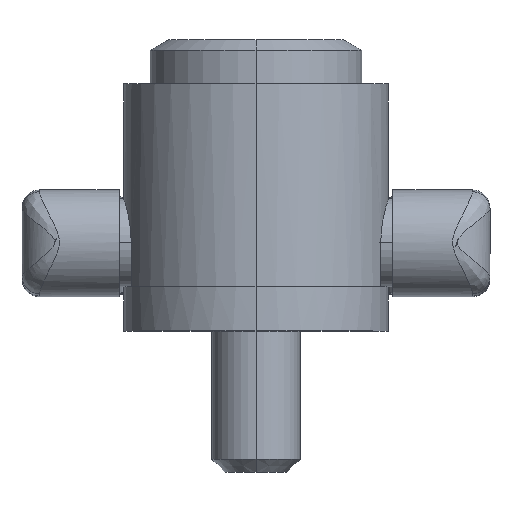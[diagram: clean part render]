
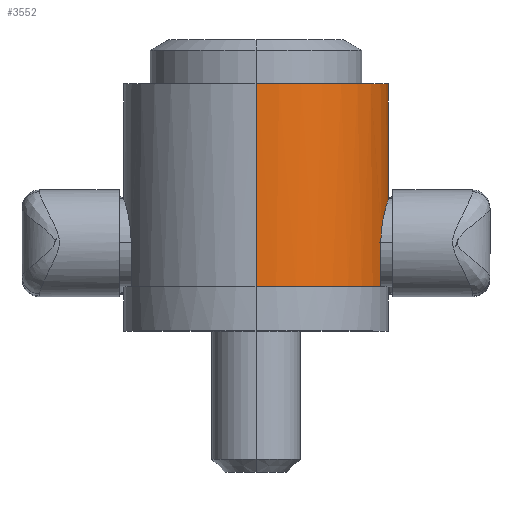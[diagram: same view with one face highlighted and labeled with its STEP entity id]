
A CAD part, top view. The second image highlights one B-rep face of the part: STEP entity #3552.
In plain terms, the highlighted cylindrical face has radius 15 mm (diameter 30 mm), a partial arc.
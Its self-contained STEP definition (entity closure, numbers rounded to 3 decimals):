
#2195 = DIRECTION ( 'NONE',  ( 0., -1., 0. ) ) ;
#2199 = DIRECTION ( 'NONE',  ( 0., 0., -1. ) ) ;
#2480 = CYLINDRICAL_SURFACE ( 'NONE', #2482, 15. ) ;
#2481 = CARTESIAN_POINT ( 'NONE',  ( 0., 33., 0. ) ) ;
#2482 = AXIS2_PLACEMENT_3D ( 'NONE', #2481, #2195, #2199 ) ;
#2524 = CARTESIAN_POINT ( 'NONE',  ( 14.142, 5., -5. ) ) ;
#2572 = CARTESIAN_POINT ( 'NONE',  ( 14.142, 5., 5. ) ) ;
#2573 = DIRECTION ( 'NONE',  ( 0., 0., -1. ) ) ;
#2574 = DIRECTION ( 'NONE',  ( 0., -1., 0. ) ) ;
#2575 = CARTESIAN_POINT ( 'NONE',  ( 0., 5., 0. ) ) ;
#2576 = AXIS2_PLACEMENT_3D ( 'NONE', #2575, #2574, #2573 ) ;
#2577 = CIRCLE ( 'NONE', #2576, 15. ) ;
#2637 = CARTESIAN_POINT ( 'NONE',  ( 0., 5., -15. ) ) ;
#2658 = DIRECTION ( 'NONE',  ( 0., -1., 0. ) ) ;
#2659 = VECTOR ( 'NONE', #2658, 1000. ) ;
#2660 = CARTESIAN_POINT ( 'NONE',  ( 0., 33., -15. ) ) ;
#2661 = LINE ( 'NONE', #2660, #2659 ) ;
#2662 = DIRECTION ( 'NONE',  ( 0., 0., -1. ) ) ;
#2663 = DIRECTION ( 'NONE',  ( 0., -1., 0. ) ) ;
#2664 = CARTESIAN_POINT ( 'NONE',  ( 0., 5., 0. ) ) ;
#2665 = AXIS2_PLACEMENT_3D ( 'NONE', #2664, #2663, #2662 ) ;
#2666 = CIRCLE ( 'NONE', #2665, 15. ) ;
#2667 = FACE_OUTER_BOUND ( 'NONE', #3606, .T. ) ;
#3427 = ORIENTED_EDGE ( 'NONE', *, *, #3647, .T. ) ;
#3465 = VERTEX_POINT ( 'NONE', #2524 ) ;
#3466 = VERTEX_POINT ( 'NONE', #2637 ) ;
#3467 = ORIENTED_EDGE ( 'NONE', *, *, #3530, .F. ) ;
#3484 = EDGE_CURVE ( 'NONE', #3486, #3645, #2577, .T. ) ;
#3485 = ORIENTED_EDGE ( 'NONE', *, *, #3644, .T. ) ;
#3486 = VERTEX_POINT ( 'NONE', #2572 ) ;
#3530 = EDGE_CURVE ( 'NONE', #3466, #3465, #2666, .T. ) ;
#3531 = ORIENTED_EDGE ( 'NONE', *, *, #3532, .F. ) ;
#3532 = EDGE_CURVE ( 'NONE', #3610, #3466, #2661, .T. ) ;
#3552 = ADVANCED_FACE ( 'NONE', ( #2667 ), #2480, .T. ) ;
#3600 = EDGE_CURVE ( 'NONE', #3612, #3465, #5341, .T. ) ;
#3601 = ORIENTED_EDGE ( 'NONE', *, *, #3600, .T. ) ;
#3606 = EDGE_LOOP ( 'NONE', ( #3607, #3679, #3646, #3485, #3427, #3601, #3467, #3531 ) ) ;
#3607 = ORIENTED_EDGE ( 'NONE', *, *, #3608, .F. ) ;
#3608 = EDGE_CURVE ( 'NONE', #3609, #3610, #5445, .T. ) ;
#3609 = VERTEX_POINT ( 'NONE', #5359 ) ;
#3610 = VERTEX_POINT ( 'NONE', #5358 ) ;
#3611 = EDGE_CURVE ( 'NONE', #3609, #3645, #5320, .T. ) ;
#3612 = VERTEX_POINT ( 'NONE', #5458 ) ;
#3643 = VERTEX_POINT ( 'NONE', #5338 ) ;
#3644 = EDGE_CURVE ( 'NONE', #3486, #3643, #5337, .T. ) ;
#3645 = VERTEX_POINT ( 'NONE', #5485 ) ;
#3646 = ORIENTED_EDGE ( 'NONE', *, *, #3484, .F. ) ;
#3647 = EDGE_CURVE ( 'NONE', #3643, #3612, #5484, .T. ) ;
#3679 = ORIENTED_EDGE ( 'NONE', *, *, #3611, .T. ) ;
#5317 = DIRECTION ( 'NONE',  ( 0., -1., 0. ) ) ;
#5318 = VECTOR ( 'NONE', #5317, 1000. ) ;
#5319 = CARTESIAN_POINT ( 'NONE',  ( 0., 33., 15. ) ) ;
#5320 = LINE ( 'NONE', #5319, #5318 ) ;
#5334 = DIRECTION ( 'NONE',  ( 0., 1., 0. ) ) ;
#5335 = VECTOR ( 'NONE', #5334, 1000. ) ;
#5336 = CARTESIAN_POINT ( 'NONE',  ( 14.142, 33., 5. ) ) ;
#5337 = LINE ( 'NONE', #5336, #5335 ) ;
#5338 = CARTESIAN_POINT ( 'NONE',  ( 14.142, 10., 5. ) ) ;
#5339 = VECTOR ( 'NONE', #5469, 1000. ) ;
#5340 = CARTESIAN_POINT ( 'NONE',  ( 14.142, 33., -5. ) ) ;
#5341 = LINE ( 'NONE', #5340, #5339 ) ;
#5352 = CARTESIAN_POINT ( 'NONE',  ( 14.142, 10., -5. ) ) ;
#5353 = CARTESIAN_POINT ( 'NONE',  ( 14.142, 10.333, -5. ) ) ;
#5354 = CARTESIAN_POINT ( 'NONE',  ( 14.154, 10.665, -4.967 ) ) ;
#5355 = CARTESIAN_POINT ( 'NONE',  ( 14.199, 11.312, -4.836 ) ) ;
#5356 = CARTESIAN_POINT ( 'NONE',  ( 14.232, 11.624, -4.74 ) ) ;
#5357 = CARTESIAN_POINT ( 'NONE',  ( 14.313, 12.225, -4.489 ) ) ;
#5358 = CARTESIAN_POINT ( 'NONE',  ( 0., 28., -15. ) ) ;
#5359 = CARTESIAN_POINT ( 'NONE',  ( 0., 28., 15. ) ) ;
#5360 = DIRECTION ( 'NONE',  ( 0., 0., 1. ) ) ;
#5379 = CARTESIAN_POINT ( 'NONE',  ( 14.362, 12.517, -4.332 ) ) ;
#5380 = CARTESIAN_POINT ( 'NONE',  ( 14.466, 13.057, -3.97 ) ) ;
#5381 = CARTESIAN_POINT ( 'NONE',  ( 14.522, 13.306, -3.765 ) ) ;
#5382 = CARTESIAN_POINT ( 'NONE',  ( 14.633, 13.766, -3.305 ) ) ;
#5383 = CARTESIAN_POINT ( 'NONE',  ( 14.689, 13.975, -3.05 ) ) ;
#5384 = CARTESIAN_POINT ( 'NONE',  ( 14.791, 14.336, -2.511 ) ) ;
#5385 = CARTESIAN_POINT ( 'NONE',  ( 14.838, 14.491, -2.222 ) ) ;
#5386 = CARTESIAN_POINT ( 'NONE',  ( 14.916, 14.744, -1.614 ) ) ;
#5387 = CARTESIAN_POINT ( 'NONE',  ( 14.947, 14.839, -1.301 ) ) ;
#5438 = CARTESIAN_POINT ( 'NONE',  ( 14.198, 11.302, 4.839 ) ) ;
#5439 = CARTESIAN_POINT ( 'NONE',  ( 14.154, 10.66, 4.967 ) ) ;
#5440 = CARTESIAN_POINT ( 'NONE',  ( 14.142, 10.333, 5. ) ) ;
#5441 = CARTESIAN_POINT ( 'NONE',  ( 14.142, 10., 5. ) ) ;
#5443 = CARTESIAN_POINT ( 'NONE',  ( 0., 28., 0. ) ) ;
#5444 = AXIS2_PLACEMENT_3D ( 'NONE', #5443, #5496, #5360 ) ;
#5445 = CIRCLE ( 'NONE', #5444, 15. ) ;
#5446 = CARTESIAN_POINT ( 'NONE',  ( 14.989, 14.967, -0.657 ) ) ;
#5447 = CARTESIAN_POINT ( 'NONE',  ( 15., 15., -0.323 ) ) ;
#5448 = CARTESIAN_POINT ( 'NONE',  ( 15., 15., 0.334 ) ) ;
#5449 = CARTESIAN_POINT ( 'NONE',  ( 14.989, 14.967, 0.66 ) ) ;
#5450 = CARTESIAN_POINT ( 'NONE',  ( 14.957, 14.87, 1.145 ) ) ;
#5451 = CARTESIAN_POINT ( 'NONE',  ( 14.944, 14.829, 1.306 ) ) ;
#5452 = CARTESIAN_POINT ( 'NONE',  ( 14.913, 14.733, 1.621 ) ) ;
#5453 = CARTESIAN_POINT ( 'NONE',  ( 14.895, 14.677, 1.774 ) ) ;
#5454 = CARTESIAN_POINT ( 'NONE',  ( 14.837, 14.49, 2.225 ) ) ;
#5458 = CARTESIAN_POINT ( 'NONE',  ( 14.142, 10., -5. ) ) ;
#5469 = DIRECTION ( 'NONE',  ( 0., -1., 0. ) ) ;
#5470 = CARTESIAN_POINT ( 'NONE',  ( 14.791, 14.336, 2.512 ) ) ;
#5471 = CARTESIAN_POINT ( 'NONE',  ( 14.688, 13.97, 3.057 ) ) ;
#5472 = CARTESIAN_POINT ( 'NONE',  ( 14.633, 13.764, 3.307 ) ) ;
#5473 = CARTESIAN_POINT ( 'NONE',  ( 14.522, 13.306, 3.765 ) ) ;
#5474 = CARTESIAN_POINT ( 'NONE',  ( 14.465, 13.052, 3.974 ) ) ;
#5475 = CARTESIAN_POINT ( 'NONE',  ( 14.361, 12.51, 4.336 ) ) ;
#5476 = CARTESIAN_POINT ( 'NONE',  ( 14.313, 12.224, 4.49 ) ) ;
#5477 = CARTESIAN_POINT ( 'NONE',  ( 14.232, 11.62, 4.741 ) ) ;
#5484 = B_SPLINE_CURVE_WITH_KNOTS ( 'NONE', 3,
 ( #5441, #5440, #5439, #5438, #5477, #5476, #5475, #5474, #5473, #5472, #5471, #5470, #5454, #5453, #5452, #5451, #5450, #5449, #5448, #5447, #5446, #5387, #5386, #5385, #5384, #5383, #5382, #5381, #5380, #5379, #5357, #5356, #5355, #5354, #5353, #5352 ),
 .UNSPECIFIED., .F., .F.,
 ( 4, 2, 2, 2, 2, 2, 2, 2, 2, 2, 2, 2, 2, 2, 2, 2, 2, 4 ),
 ( 0., 0.001, 0.002, 0.003, 0.004, 0.005, 0.006, 0.006, 0.007, 0.008, 0.009, 0.01, 0.011, 0.012, 0.013, 0.014, 0.015, 0.016 ),
 .UNSPECIFIED. ) ;
#5485 = CARTESIAN_POINT ( 'NONE',  ( 0., 5., 15. ) ) ;
#5496 = DIRECTION ( 'NONE',  ( 0., 1., 0. ) ) ;
